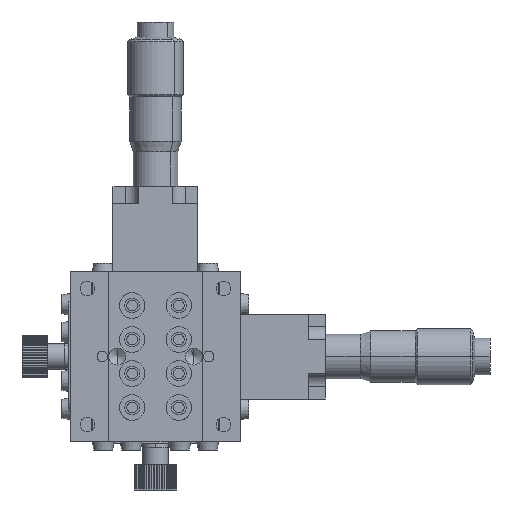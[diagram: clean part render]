
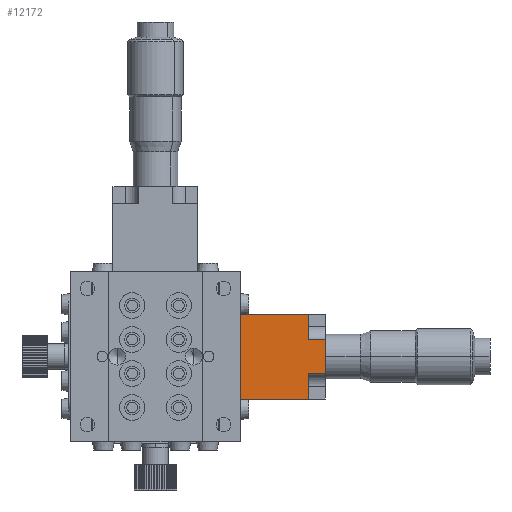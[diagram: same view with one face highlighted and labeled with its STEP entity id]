
A CAD part, front view. The second image highlights one B-rep face of the part: STEP entity #12172.
In plain terms, the highlighted planar face has unit normal (0, -1, 0).
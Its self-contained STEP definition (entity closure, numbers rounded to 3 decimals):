
#70 = VECTOR ( 'NONE', #636, 1000. ) ;
#155 = ORIENTED_EDGE ( 'NONE', *, *, #19057, .F. ) ;
#321 = CARTESIAN_POINT ( 'NONE',  ( 10., 0., 0. ) ) ;
#636 = DIRECTION ( 'NONE',  ( -1., 0., 0. ) ) ;
#1938 = VECTOR ( 'NONE', #21062, 1000. ) ;
#2146 = CARTESIAN_POINT ( 'NONE',  ( -4., 0., -20. ) ) ;
#2427 = CARTESIAN_POINT ( 'NONE',  ( -10., 0., -16. ) ) ;
#2488 = CARTESIAN_POINT ( 'NONE',  ( 4., 0., -16. ) ) ;
#4343 = LINE ( 'NONE', #28096, #1938 ) ;
#4829 = EDGE_CURVE ( 'NONE', #25178, #17597, #4343, .T. ) ;
#4855 = LINE ( 'NONE', #21320, #11526 ) ;
#4904 = EDGE_LOOP ( 'NONE', ( #26886, #10062, #9707, #19043, #155, #25707, #6403, #15164 ) ) ;
#6050 = VERTEX_POINT ( 'NONE', #25039 ) ;
#6403 = ORIENTED_EDGE ( 'NONE', *, *, #14038, .T. ) ;
#6634 = DIRECTION ( 'NONE',  ( 0., 1., 0. ) ) ;
#7307 = CARTESIAN_POINT ( 'NONE',  ( -10., 0., 0. ) ) ;
#7411 = CARTESIAN_POINT ( 'NONE',  ( 10., 0., 0. ) ) ;
#7601 = VERTEX_POINT ( 'NONE', #8784 ) ;
#8784 = CARTESIAN_POINT ( 'NONE',  ( 4., 0., -16. ) ) ;
#9029 = CARTESIAN_POINT ( 'NONE',  ( -10., 0., -16. ) ) ;
#9547 = FACE_OUTER_BOUND ( 'NONE', #4904, .T. ) ;
#9707 = ORIENTED_EDGE ( 'NONE', *, *, #27159, .F. ) ;
#10062 = ORIENTED_EDGE ( 'NONE', *, *, #4829, .T. ) ;
#11056 = VERTEX_POINT ( 'NONE', #16884 ) ;
#11526 = VECTOR ( 'NONE', #28233, 1000. ) ;
#11662 = CARTESIAN_POINT ( 'NONE',  ( 10., 0., -20. ) ) ;
#11690 = EDGE_CURVE ( 'NONE', #25178, #23770, #21788, .T. ) ;
#12172 = ADVANCED_FACE ( 'NONE', ( #9547 ), #24141, .F. ) ;
#13263 = CARTESIAN_POINT ( 'NONE',  ( 10., 0., -16. ) ) ;
#13552 = DIRECTION ( 'NONE',  ( -1., 0., 0. ) ) ;
#13662 = LINE ( 'NONE', #11662, #70 ) ;
#14038 = EDGE_CURVE ( 'NONE', #25781, #11056, #28683, .T. ) ;
#14108 = EDGE_CURVE ( 'NONE', #25781, #25585, #4855, .T. ) ;
#15164 = ORIENTED_EDGE ( 'NONE', *, *, #21356, .T. ) ;
#15455 = CARTESIAN_POINT ( 'NONE',  ( 10., 0., 0. ) ) ;
#15495 = DIRECTION ( 'NONE',  ( -1., 0., 0. ) ) ;
#15974 = DIRECTION ( 'NONE',  ( 0., 0., -1. ) ) ;
#16884 = CARTESIAN_POINT ( 'NONE',  ( -10., 0., 0. ) ) ;
#17597 = VERTEX_POINT ( 'NONE', #2146 ) ;
#18564 = VECTOR ( 'NONE', #24895, 1000. ) ;
#19043 = ORIENTED_EDGE ( 'NONE', *, *, #20797, .F. ) ;
#19057 = EDGE_CURVE ( 'NONE', #25585, #7601, #20055, .T. ) ;
#19559 = CARTESIAN_POINT ( 'NONE',  ( 10., 0., -16. ) ) ;
#20055 = LINE ( 'NONE', #13263, #28789 ) ;
#20293 = VECTOR ( 'NONE', #15974, 1000. ) ;
#20760 = VECTOR ( 'NONE', #13552, 1000. ) ;
#20797 = EDGE_CURVE ( 'NONE', #7601, #6050, #26245, .T. ) ;
#21062 = DIRECTION ( 'NONE',  ( 0., 0., -1. ) ) ;
#21320 = CARTESIAN_POINT ( 'NONE',  ( 10., 0., 0. ) ) ;
#21356 = EDGE_CURVE ( 'NONE', #11056, #23770, #24494, .T. ) ;
#21788 = LINE ( 'NONE', #9029, #20760 ) ;
#21890 = DIRECTION ( 'NONE',  ( 0., 0., 1. ) ) ;
#22725 = VECTOR ( 'NONE', #22860, 1000. ) ;
#22860 = DIRECTION ( 'NONE',  ( -1., 0., 0. ) ) ;
#23770 = VERTEX_POINT ( 'NONE', #2427 ) ;
#24141 = PLANE ( 'NONE',  #28791 ) ;
#24494 = LINE ( 'NONE', #7307, #18564 ) ;
#24895 = DIRECTION ( 'NONE',  ( 0., 0., -1. ) ) ;
#25039 = CARTESIAN_POINT ( 'NONE',  ( 4., 0., -20. ) ) ;
#25178 = VERTEX_POINT ( 'NONE', #25579 ) ;
#25579 = CARTESIAN_POINT ( 'NONE',  ( -4., 0., -16. ) ) ;
#25585 = VERTEX_POINT ( 'NONE', #19559 ) ;
#25707 = ORIENTED_EDGE ( 'NONE', *, *, #14108, .F. ) ;
#25781 = VERTEX_POINT ( 'NONE', #321 ) ;
#26245 = LINE ( 'NONE', #2488, #20293 ) ;
#26886 = ORIENTED_EDGE ( 'NONE', *, *, #11690, .F. ) ;
#27159 = EDGE_CURVE ( 'NONE', #6050, #17597, #13662, .T. ) ;
#28096 = CARTESIAN_POINT ( 'NONE',  ( -4., 0., -16. ) ) ;
#28233 = DIRECTION ( 'NONE',  ( 0., 0., -1. ) ) ;
#28683 = LINE ( 'NONE', #7411, #22725 ) ;
#28789 = VECTOR ( 'NONE', #15495, 1000. ) ;
#28791 = AXIS2_PLACEMENT_3D ( 'NONE', #15455, #6634, #21890 ) ;
